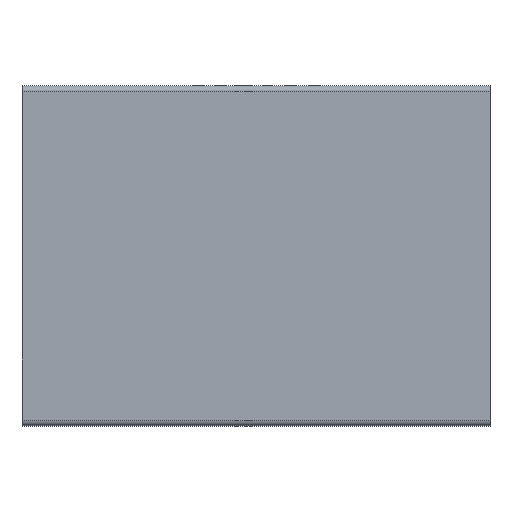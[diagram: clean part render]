
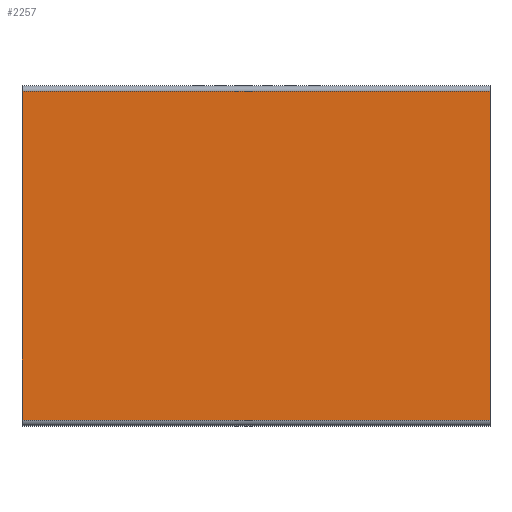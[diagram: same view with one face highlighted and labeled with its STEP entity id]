
A CAD part, top view. The second image highlights one B-rep face of the part: STEP entity #2257.
In plain terms, the highlighted planar face has unit normal (0, 0, 1).
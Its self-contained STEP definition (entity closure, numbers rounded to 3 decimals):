
#274 = PLANE('',#275);
#275 = AXIS2_PLACEMENT_3D('',#276,#277,#278);
#276 = CARTESIAN_POINT('',(52.5,-38.1,14.7));
#277 = DIRECTION('',(1.,0.,0.));
#278 = DIRECTION('',(0.,0.,1.));
#330 = PLANE('',#331);
#331 = AXIS2_PLACEMENT_3D('',#332,#333,#334);
#332 = CARTESIAN_POINT('',(-52.5,-38.1,14.7));
#333 = DIRECTION('',(1.,0.,0.));
#334 = DIRECTION('',(0.,0.,1.));
#356 = CYLINDRICAL_SURFACE('',#357,1.2);
#357 = AXIS2_PLACEMENT_3D('',#358,#359,#360);
#358 = CARTESIAN_POINT('',(-52.5,-36.9,89.7));
#359 = DIRECTION('',(1.,0.,0.));
#360 = DIRECTION('',(0.,-1.,0.));
#906 = VERTEX_POINT('',#907);
#907 = CARTESIAN_POINT('',(52.5,36.9,90.9));
#922 = CYLINDRICAL_SURFACE('',#923,1.2);
#923 = AXIS2_PLACEMENT_3D('',#924,#925,#926);
#924 = CARTESIAN_POINT('',(-52.5,36.9,89.7));
#925 = DIRECTION('',(1.,0.,0.));
#926 = DIRECTION('',(-0.,1.,0.));
#934 = EDGE_CURVE('',#935,#906,#937,.T.);
#935 = VERTEX_POINT('',#936);
#936 = CARTESIAN_POINT('',(52.5,-36.9,90.9));
#937 = SURFACE_CURVE('',#938,(#942,#949),.PCURVE_S1.);
#938 = LINE('',#939,#940);
#939 = CARTESIAN_POINT('',(52.5,-38.1,90.9));
#940 = VECTOR('',#941,1.);
#941 = DIRECTION('',(0.,1.,0.));
#942 = PCURVE('',#274,#943);
#943 = DEFINITIONAL_REPRESENTATION('',(#944),#948);
#944 = LINE('',#945,#946);
#945 = CARTESIAN_POINT('',(76.2,0.));
#946 = VECTOR('',#947,1.);
#947 = DIRECTION('',(0.,-1.));
#948 = ( GEOMETRIC_REPRESENTATION_CONTEXT(2) 
PARAMETRIC_REPRESENTATION_CONTEXT() REPRESENTATION_CONTEXT('2D SPACE',''
  ) );
#949 = PCURVE('',#950,#955);
#950 = PLANE('',#951);
#951 = AXIS2_PLACEMENT_3D('',#952,#953,#954);
#952 = CARTESIAN_POINT('',(-52.5,-38.1,90.9));
#953 = DIRECTION('',(0.,0.,1.));
#954 = DIRECTION('',(1.,0.,0.));
#955 = DEFINITIONAL_REPRESENTATION('',(#956),#960);
#956 = LINE('',#957,#958);
#957 = CARTESIAN_POINT('',(105.,0.));
#958 = VECTOR('',#959,1.);
#959 = DIRECTION('',(0.,1.));
#960 = ( GEOMETRIC_REPRESENTATION_CONTEXT(2) 
PARAMETRIC_REPRESENTATION_CONTEXT() REPRESENTATION_CONTEXT('2D SPACE',''
  ) );
#1264 = VERTEX_POINT('',#1265);
#1265 = CARTESIAN_POINT('',(-52.5,-36.9,90.9));
#1291 = EDGE_CURVE('',#1264,#935,#1292,.T.);
#1292 = SURFACE_CURVE('',#1293,(#1297,#1304),.PCURVE_S1.);
#1293 = LINE('',#1294,#1295);
#1294 = CARTESIAN_POINT('',(-52.5,-36.9,90.9));
#1295 = VECTOR('',#1296,1.);
#1296 = DIRECTION('',(1.,0.,0.));
#1297 = PCURVE('',#356,#1298);
#1298 = DEFINITIONAL_REPRESENTATION('',(#1299),#1303);
#1299 = LINE('',#1300,#1301);
#1300 = CARTESIAN_POINT('',(-1.571,0.));
#1301 = VECTOR('',#1302,1.);
#1302 = DIRECTION('',(-0.,1.));
#1303 = ( GEOMETRIC_REPRESENTATION_CONTEXT(2) 
PARAMETRIC_REPRESENTATION_CONTEXT() REPRESENTATION_CONTEXT('2D SPACE',''
  ) );
#1304 = PCURVE('',#950,#1305);
#1305 = DEFINITIONAL_REPRESENTATION('',(#1306),#1310);
#1306 = LINE('',#1307,#1308);
#1307 = CARTESIAN_POINT('',(0.,1.2));
#1308 = VECTOR('',#1309,1.);
#1309 = DIRECTION('',(1.,0.));
#1310 = ( GEOMETRIC_REPRESENTATION_CONTEXT(2) 
PARAMETRIC_REPRESENTATION_CONTEXT() REPRESENTATION_CONTEXT('2D SPACE',''
  ) );
#1394 = VERTEX_POINT('',#1395);
#1395 = CARTESIAN_POINT('',(-52.5,36.9,90.9));
#1417 = EDGE_CURVE('',#1264,#1394,#1418,.T.);
#1418 = SURFACE_CURVE('',#1419,(#1423,#1430),.PCURVE_S1.);
#1419 = LINE('',#1420,#1421);
#1420 = CARTESIAN_POINT('',(-52.5,-38.1,90.9));
#1421 = VECTOR('',#1422,1.);
#1422 = DIRECTION('',(0.,1.,0.));
#1423 = PCURVE('',#330,#1424);
#1424 = DEFINITIONAL_REPRESENTATION('',(#1425),#1429);
#1425 = LINE('',#1426,#1427);
#1426 = CARTESIAN_POINT('',(76.2,0.));
#1427 = VECTOR('',#1428,1.);
#1428 = DIRECTION('',(0.,-1.));
#1429 = ( GEOMETRIC_REPRESENTATION_CONTEXT(2) 
PARAMETRIC_REPRESENTATION_CONTEXT() REPRESENTATION_CONTEXT('2D SPACE',''
  ) );
#1430 = PCURVE('',#950,#1431);
#1431 = DEFINITIONAL_REPRESENTATION('',(#1432),#1436);
#1432 = LINE('',#1433,#1434);
#1433 = CARTESIAN_POINT('',(0.,0.));
#1434 = VECTOR('',#1435,1.);
#1435 = DIRECTION('',(0.,1.));
#1436 = ( GEOMETRIC_REPRESENTATION_CONTEXT(2) 
PARAMETRIC_REPRESENTATION_CONTEXT() REPRESENTATION_CONTEXT('2D SPACE',''
  ) );
#2257 = ADVANCED_FACE('',(#2258),#950,.T.);
#2258 = FACE_BOUND('',#2259,.T.);
#2259 = EDGE_LOOP('',(#2260,#2261,#2262,#2263));
#2260 = ORIENTED_EDGE('',*,*,#1417,.F.);
#2261 = ORIENTED_EDGE('',*,*,#1291,.T.);
#2262 = ORIENTED_EDGE('',*,*,#934,.T.);
#2263 = ORIENTED_EDGE('',*,*,#2264,.F.);
#2264 = EDGE_CURVE('',#1394,#906,#2265,.T.);
#2265 = SURFACE_CURVE('',#2266,(#2270,#2277),.PCURVE_S1.);
#2266 = LINE('',#2267,#2268);
#2267 = CARTESIAN_POINT('',(-52.5,36.9,90.9));
#2268 = VECTOR('',#2269,1.);
#2269 = DIRECTION('',(1.,0.,0.));
#2270 = PCURVE('',#950,#2271);
#2271 = DEFINITIONAL_REPRESENTATION('',(#2272),#2276);
#2272 = LINE('',#2273,#2274);
#2273 = CARTESIAN_POINT('',(0.,75.));
#2274 = VECTOR('',#2275,1.);
#2275 = DIRECTION('',(1.,0.));
#2276 = ( GEOMETRIC_REPRESENTATION_CONTEXT(2) 
PARAMETRIC_REPRESENTATION_CONTEXT() REPRESENTATION_CONTEXT('2D SPACE',''
  ) );
#2277 = PCURVE('',#922,#2278);
#2278 = DEFINITIONAL_REPRESENTATION('',(#2279),#2283);
#2279 = LINE('',#2280,#2281);
#2280 = CARTESIAN_POINT('',(1.571,0.));
#2281 = VECTOR('',#2282,1.);
#2282 = DIRECTION('',(0.,1.));
#2283 = ( GEOMETRIC_REPRESENTATION_CONTEXT(2) 
PARAMETRIC_REPRESENTATION_CONTEXT() REPRESENTATION_CONTEXT('2D SPACE',''
  ) );
